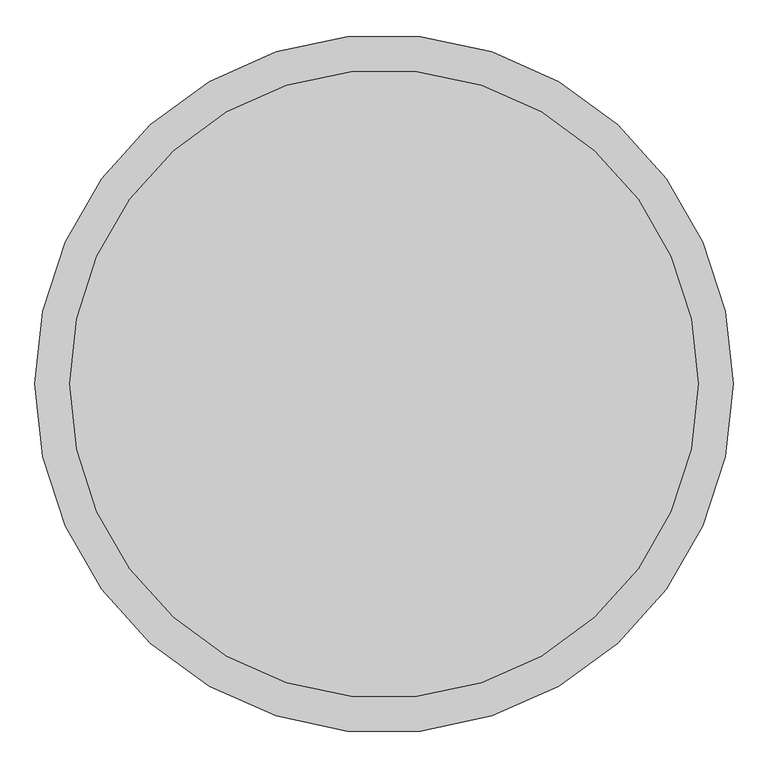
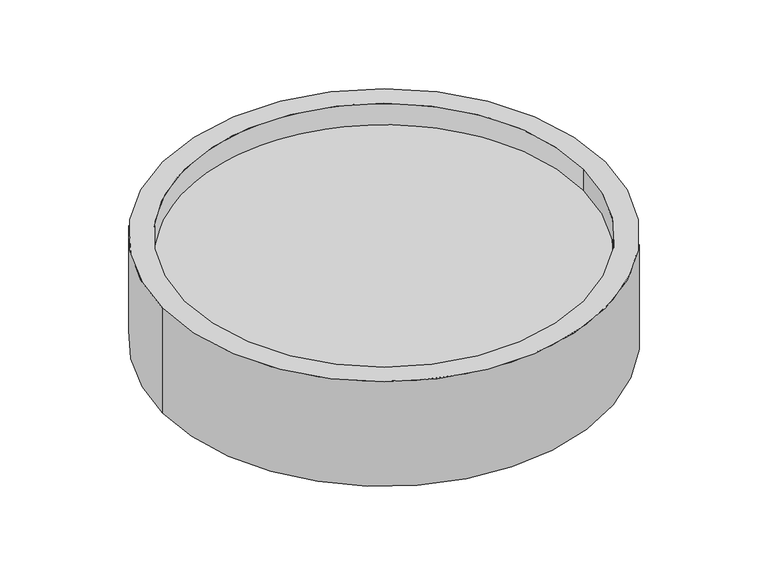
"""IFC4 building model written with IfcOpenShell, lengths in millimetres: proxy geometry, Wasserbecken : Wasserbecken."""

from ifc_helpers import new_model, si_unit, point, frame, origin, origin_with_axes, origin_2d, place, context, project, spatial, polyline, circle_curve, trimmed, segment, composite_curve, outline, extrude, source, transform, mapped, element, save
from ifc_brep_helpers import plane_surface, cylinder_surface, revolved_surface, advanced_brep


def generic_models_ad2ae4fc(model_context):
    return source(origin(), model_context, "Body", "SolidModel", [
        advanced_brep(
        [(-500.0, 0.0, 250.0), (500.0, 0.0, 250.0), (-450.0, 0.0, 250.0), (450.0, 0.0, 250.0), (-500.0, 0.0, 0.0), (500.0, 0.0, 0.0), (-450.0, 0.0, 50.0), (450.0, 0.0, 50.0)],
        [
            (0, 1, circle_curve(frame((0.0, 0.0, 250.0), z_axis=(0.0, 0.0, 1.0), x_axis=(1.0, 0.0, 0.0)), 500.0)),
            (1, 0, circle_curve(frame((0.0, 0.0, 250.0), z_axis=(0.0, 0.0, 1.0), x_axis=(1.0, 0.0, 0.0)), 500.0)),
            (2, 3, circle_curve(frame((0.0, 0.0, 250.0), z_axis=(0.0, 0.0, -1.0), x_axis=(1.0, 0.0, 0.0)), 450.0)),
            (3, 2, circle_curve(frame((0.0, 0.0, 250.0), z_axis=(0.0, 0.0, -1.0), x_axis=(1.0, 0.0, 0.0)), 450.0)),
            (4, 5, circle_curve(frame((0.0, 0.0, 0.0), z_axis=(0.0, 0.0, -1.0), x_axis=(1.0, 0.0, 0.0)), 500.0)),
            (5, 4, circle_curve(frame((0.0, 0.0, 0.0), z_axis=(0.0, 0.0, -1.0), x_axis=(1.0, 0.0, 0.0)), 500.0)),
            (0, 4),
            (5, 1),
            (2, 6),
            (6, 7, circle_curve(frame((0.0, 0.0, 50.0), z_axis=(0.0, 0.0, -1.0), x_axis=(1.0, 0.0, 0.0)), 450.0)),
            (7, 3),
            (7, 6, circle_curve(frame((0.0, 0.0, 50.0), z_axis=(0.0, 0.0, -1.0), x_axis=(1.0, 0.0, 0.0)), 450.0)),
        ],
        [
            plane_surface(frame((500.0, 0.0, 250.0), z_axis=(0.0, 0.0, 1.0), x_axis=(0.0, 1.0, 0.0))),
            plane_surface(frame((500.0, 0.0, 0.0), z_axis=(0.0, 0.0, -1.0), x_axis=(0.0, -1.0, 0.0))),
            cylinder_surface(origin_with_axes(), 500.0),
            revolved_surface(polyline([(450.0, 0.0, 50.0), (450.0, 0.0, 250.0)]), (0.0, 0.0, 0.0), (0.0, 0.0, -1.0)),
            plane_surface(frame((450.0, 0.0, 50.0), z_axis=(0.0, 0.0, 1.0), x_axis=(0.0, 1.0, 0.0))),
        ],
        [
            (0, [[1, 2], [3, 4]]),
            (1, [[5, 6]]),
            (2, [[-1, 7, -6, 8]]),
            (2, [[-2, -8, -5, -7]]),
            (3, [[-3, 9, 10, 11]]),
            (3, [[-4, -11, 12, -9]]),
            (4, [[-10, -12]]),
        ],
    ),
        extrude(outline(composite_curve([segment(trimmed(circle_curve(origin_2d(), 450.0), [point((-450.0, 0.0))], [point((450.0, 0.0))], False, "CARTESIAN"), True, "CONTINUOUS"), segment(trimmed(circle_curve(origin_2d(), 450.0), [point((450.0, 0.0))], [point((-450.0, 0.0))], False, "CARTESIAN"), True, "CONTINUOUS")], self_intersect=False)), frame((0.0, 0.0, 50.0), z_axis=(0.0, 0.0, 1.0), x_axis=(1.0, 0.0, 0.0)), (0.0, 0.0, 1.0), 150.0),
    ])


if __name__ == "__main__":
    model = new_model("IFC4")
    model_context = context("Model", 3, world=origin())
    ifc_project = project(units=[si_unit("LENGTHUNIT", "METRE", prefix="MILLI")], contexts=[model_context])
    site = spatial("IfcSite", under=ifc_project)
    building = spatial("IfcBuilding", under=site)
    placement = place(None, origin())
    generic_models_shape = generic_models_ad2ae4fc(model_context)
    element("IfcBuildingElementProxy", 1, Name="Wasserbecken : Wasserbecken", ObjectType="Wasserbecken : Wasserbecken", at=placement, inside=building, context=model_context, shape_type="MappedRepresentation", body=[
        mapped(generic_models_shape, transform((0.0, 0.0, 0.0), x_axis=(1.0, 0.0, 0.0), y_axis=(0.0, 1.0, 0.0), z_axis=(0.0, 0.0, 1.0))),
    ])
    save(model, "model.ifc")
